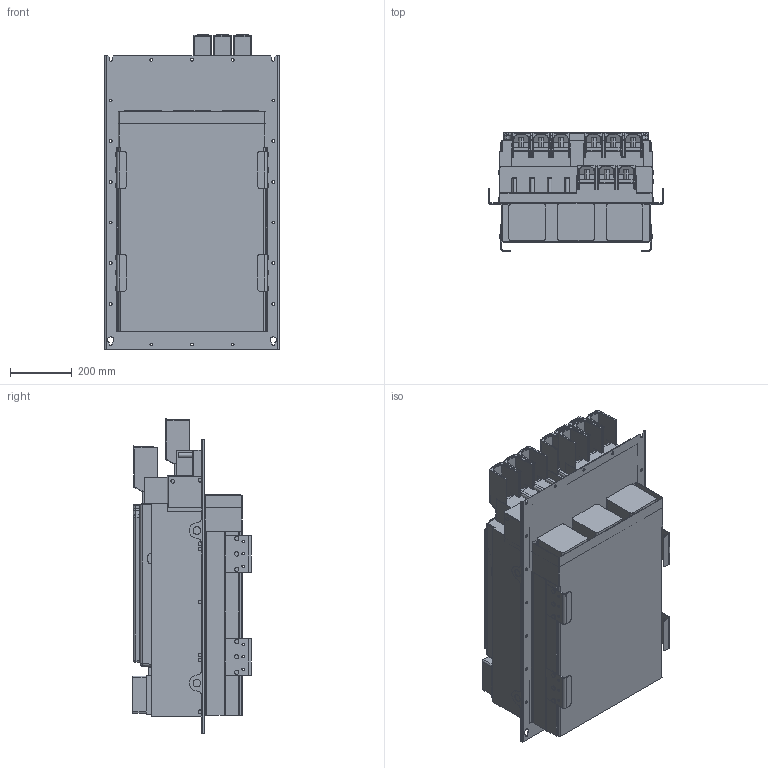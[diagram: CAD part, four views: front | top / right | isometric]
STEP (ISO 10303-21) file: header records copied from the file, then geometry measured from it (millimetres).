
FILE_DESCRIPTION (( 'STEP AP214' ), '1' );
FILE_NAME ('F6-9TR5-K000.STEP', '2023-03-17T07:14:34', ( '' ), ( '' ), 'SwSTEP 2.0', 'SolidWorks 2022', '' );
FILE_SCHEMA (( 'AUTOMOTIVE_DESIGN' ));
Length unit declared in the file: millimetre
Products named in the file (14): Kundenmodell^10068272_000; 10054881_000_Deckel (Kundenmodell); F6-9TR5-K000; 10044088_000_Kundenmodell; 10059670_000_Kundenmodell; 10049764_000_Kundenmodell; Kundenmodell^10054881_000; 10068272_000_Kundenmodell; 10059764_000_Blindabdeckung (Kundenmodell); Kundenmodell^10059764_000; Kundenmodell^10035735_000; Kundenmodell^10049764_000; Kundenmodell^10044088_000; 10035735_000_Kundenmodell
Assembly tree (13 placements, depth 4):
  F6-9TR5-K000
    10059670_000_Kundenmodell
      10068272_000_Kundenmodell
        Kundenmodell^10068272_000
    10049764_000_Kundenmodell
      Kundenmodell^10049764_000
    10035735_000_Kundenmodell
      10059764_000_Blindabdeckung (Kundenmodell)
        Kundenmodell^10059764_000
      Kundenmodell^10035735_000
    10044088_000_Kundenmodell
      Kundenmodell^10044088_000
    10054881_000_Deckel (Kundenmodell)
      Kundenmodell^10054881_000
Bounding box: 566 x 385 x 1024.88 mm (x, y, z)
Volume: 126997276.8 mm3; surface area: 4518151.4 mm2
Topology: 6 solids, 14 shells, 3167 faces, 8310 edges, 5238 vertices
Faces by surface type: plane 1509, cylinder 1058, bspline 273, cone 154, sphere 92, torus 81
Entity records: 106019 total; most frequent: CARTESIAN_POINT 29558, ORIENTED_EDGE 16452, DIRECTION 15094, EDGE_CURVE 8226, VERTEX_POINT 5238, AXIS2_PLACEMENT_3D 5050, VECTOR 4994, LINE 4994
